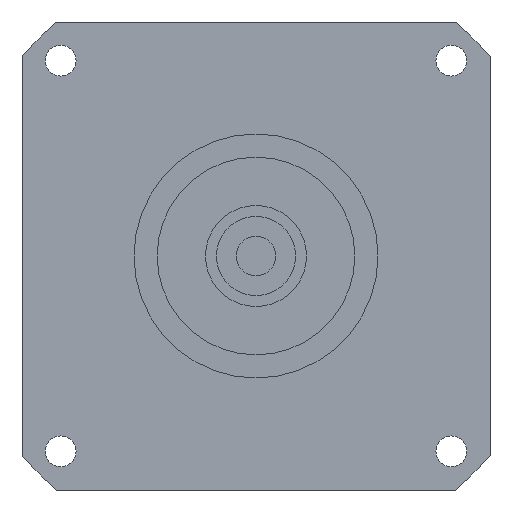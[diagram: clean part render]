
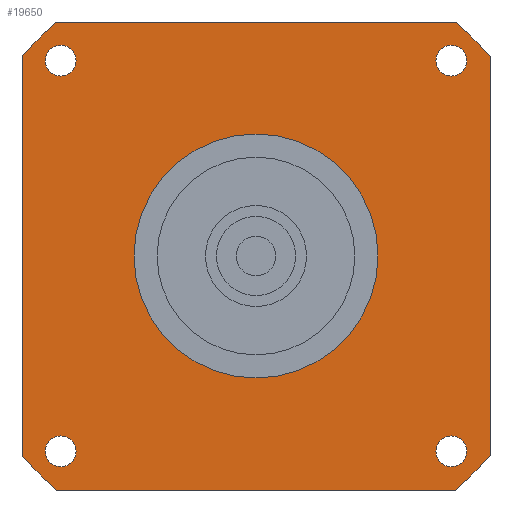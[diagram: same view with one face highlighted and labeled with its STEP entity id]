
A CAD part, left-side view. The second image highlights one B-rep face of the part: STEP entity #19650.
In plain terms, the highlighted planar face has unit normal (-1, 0, 0) as drawn and (0, 0, -1) by its records, which use the part's own axes.
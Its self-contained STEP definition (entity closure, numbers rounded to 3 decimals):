
#13830=CARTESIAN_POINT('',(53.25,45.436,-41.));
#13840=VERTEX_POINT('',#13830);
#13890=CARTESIAN_POINT('',(53.25,53.25,-41.));
#13900=DIRECTION('',(0.,-1.,0.));
#13910=VECTOR('',#13900,1000.);
#13920=LINE('',#13890,#13910);
#13930=CARTESIAN_POINT('',(53.25,-45.436,-41.));
#13940=VERTEX_POINT('',#13930);
#13950=EDGE_CURVE('',#13840,#13940,#13920,.T.);
#18070=CARTESIAN_POINT('',(-40.949,44.449,-41.));
#18080=VERTEX_POINT('',#18070);
#18110=CARTESIAN_POINT('',(-44.449,44.449,-41.));
#18120=DIRECTION('',(0.,0.,-1.));
#18130=DIRECTION('',(-1.,0.,0.));
#18140=AXIS2_PLACEMENT_3D('',#18110,#18120,#18130);
#18150=CIRCLE('',#18140,3.5);
#18160=CARTESIAN_POINT('',(-47.949,44.449,-41.));
#18170=VERTEX_POINT('',#18160);
#18180=EDGE_CURVE('',#18170,#18080,#18150,.T.);
#18300=CARTESIAN_POINT('',(53.25,53.25,-41.));
#18310=DIRECTION('',(0.,0.,-1.));
#18320=DIRECTION('',(1.,0.,0.));
#18330=AXIS2_PLACEMENT_3D('',#18300,#18310,#18320);
#18340=PLANE('',#18330);
#18350=ORIENTED_EDGE('',*,*,#18180,.F.);
#18360=EDGE_CURVE('',#18080,#18170,#18150,.T.);
#18370=ORIENTED_EDGE('',*,*,#18360,.F.);
#18380=EDGE_LOOP('',(#18370,#18350));
#18390=FACE_BOUND('',#18380,.T.);
#18400=CARTESIAN_POINT('',(44.449,44.449,-41.));
#18410=DIRECTION('',(0.,0.,-1.));
#18420=DIRECTION('',(0.,1.,0.));
#18430=AXIS2_PLACEMENT_3D('',#18400,#18410,#18420);
#18440=CIRCLE('',#18430,3.5);
#18450=CARTESIAN_POINT('',(44.449,47.949,-41.));
#18460=VERTEX_POINT('',#18450);
#18470=CARTESIAN_POINT('',(44.449,40.949,-41.));
#18480=VERTEX_POINT('',#18470);
#18490=EDGE_CURVE('',#18460,#18480,#18440,.T.);
#18500=ORIENTED_EDGE('',*,*,#18490,.F.);
#18510=EDGE_CURVE('',#18480,#18460,#18440,.T.);
#18520=ORIENTED_EDGE('',*,*,#18510,.F.);
#18530=EDGE_LOOP('',(#18520,#18500));
#18540=FACE_BOUND('',#18530,.T.);
#18550=CARTESIAN_POINT('',(0.,0.,
-41.));
#18560=DIRECTION('',(0.,0.,1.));
#18570=DIRECTION('',(0.,1.,0.));
#18580=AXIS2_PLACEMENT_3D('',#18550,#18560,#18570);
#18590=CIRCLE('',#18580,27.76);
#18600=CARTESIAN_POINT('',(-27.76,0.,-41.));
#18610=VERTEX_POINT('',#18600);
#18620=CARTESIAN_POINT('',(27.76,0.,-41.));
#18630=VERTEX_POINT('',#18620);
#18640=EDGE_CURVE('',#18610,#18630,#18590,.T.);
#18650=ORIENTED_EDGE('',*,*,#18640,.T.);
#18660=CARTESIAN_POINT('',(0.,27.76,-41.));
#18670=VERTEX_POINT('',#18660);
#18680=EDGE_CURVE('',#18670,#18610,#18590,.T.);
#18690=ORIENTED_EDGE('',*,*,#18680,.T.);
#18700=EDGE_CURVE('',#18630,#18670,#18590,.T.);
#18710=ORIENTED_EDGE('',*,*,#18700,.T.);
#18720=EDGE_LOOP('',(#18710,#18690,#18650));
#18730=FACE_BOUND('',#18720,.T.);
#18740=CARTESIAN_POINT('',(44.449,-44.449,-41.));
#18750=DIRECTION('',(0.,0.,-1.));
#18760=DIRECTION('',(1.,0.,0.));
#18770=AXIS2_PLACEMENT_3D('',#18740,#18750,#18760);
#18780=CIRCLE('',#18770,3.5);
#18790=CARTESIAN_POINT('',(47.949,-44.449,-41.));
#18800=VERTEX_POINT('',#18790);
#18810=CARTESIAN_POINT('',(40.949,-44.449,-41.));
#18820=VERTEX_POINT('',#18810);
#18830=EDGE_CURVE('',#18800,#18820,#18780,.T.);
#18840=ORIENTED_EDGE('',*,*,#18830,.F.);
#18850=EDGE_CURVE('',#18820,#18800,#18780,.T.);
#18860=ORIENTED_EDGE('',*,*,#18850,.F.);
#18870=EDGE_LOOP('',(#18860,#18840));
#18880=FACE_BOUND('',#18870,.T.);
#18890=CARTESIAN_POINT('',(-44.449,-44.449,-41.));
#18900=DIRECTION('',(0.,0.,-1.));
#18910=DIRECTION('',(0.,-1.,0.));
#18920=AXIS2_PLACEMENT_3D('',#18890,#18900,#18910);
#18930=CIRCLE('',#18920,3.5);
#18940=CARTESIAN_POINT('',(-44.449,-47.949,-41.));
#18950=VERTEX_POINT('',#18940);
#18960=CARTESIAN_POINT('',(-44.449,-40.949,-41.));
#18970=VERTEX_POINT('',#18960);
#18980=EDGE_CURVE('',#18950,#18970,#18930,.T.);
#18990=ORIENTED_EDGE('',*,*,#18980,.F.);
#19000=EDGE_CURVE('',#18970,#18950,#18930,.T.);
#19010=ORIENTED_EDGE('',*,*,#19000,.F.);
#19020=EDGE_LOOP('',(#19010,#18990));
#19030=FACE_BOUND('',#19020,.T.);
#19040=CARTESIAN_POINT('',(-53.25,53.25,-41.));
#19050=DIRECTION('',(1.,0.,0.));
#19060=VECTOR('',#19050,1000.);
#19070=LINE('',#19040,#19060);
#19080=CARTESIAN_POINT('',(-45.436,53.25,-41.));
#19090=VERTEX_POINT('',#19080);
#19100=CARTESIAN_POINT('',(45.436,53.25,-41.));
#19110=VERTEX_POINT('',#19100);
#19120=EDGE_CURVE('',#19090,#19110,#19070,.T.);
#19130=ORIENTED_EDGE('',*,*,#19120,.T.);
#19140=CARTESIAN_POINT('',(0.,0.,-41.));
#19150=DIRECTION('',(0.,0.,-1.));
#19160=DIRECTION('',(1.,0.,0.));
#19170=AXIS2_PLACEMENT_3D('',#19140,#19150,#19160);
#19180=CIRCLE('',#19170,70.);
#19190=CARTESIAN_POINT('',(-53.25,45.436,-41.));
#19200=VERTEX_POINT('',#19190);
#19210=EDGE_CURVE('',#19200,#19090,#19180,.T.);
#19220=ORIENTED_EDGE('',*,*,#19210,.T.);
#19230=CARTESIAN_POINT('',(-53.25,-53.25,-41.));
#19240=DIRECTION('',(0.,1.,0.));
#19250=VECTOR('',#19240,1000.);
#19260=LINE('',#19230,#19250);
#19270=CARTESIAN_POINT('',(-53.25,-45.436,-41.));
#19280=VERTEX_POINT('',#19270);
#19290=EDGE_CURVE('',#19280,#19200,#19260,.T.);
#19300=ORIENTED_EDGE('',*,*,#19290,.T.);
#19310=CARTESIAN_POINT('',(0.,0.,-41.));
#19320=DIRECTION('',(0.,0.,-1.));
#19330=DIRECTION('',(1.,0.,0.));
#19340=AXIS2_PLACEMENT_3D('',#19310,#19320,#19330);
#19350=CIRCLE('',#19340,70.);
#19360=CARTESIAN_POINT('',(-45.436,-53.25,-41.));
#19370=VERTEX_POINT('',#19360);
#19380=EDGE_CURVE('',#19370,#19280,#19350,.T.);
#19390=ORIENTED_EDGE('',*,*,#19380,.T.);
#19400=CARTESIAN_POINT('',(53.25,-53.25,-41.));
#19410=DIRECTION('',(-1.,0.,0.));
#19420=VECTOR('',#19410,1000.);
#19430=LINE('',#19400,#19420);
#19440=CARTESIAN_POINT('',(45.436,-53.25,-41.));
#19450=VERTEX_POINT('',#19440);
#19460=EDGE_CURVE('',#19450,#19370,#19430,.T.);
#19470=ORIENTED_EDGE('',*,*,#19460,.T.);
#19480=CARTESIAN_POINT('',(0.,0.,-41.));
#19490=DIRECTION('',(0.,0.,-1.));
#19500=DIRECTION('',(1.,0.,0.));
#19510=AXIS2_PLACEMENT_3D('',#19480,#19490,#19500);
#19520=CIRCLE('',#19510,70.);
#19530=EDGE_CURVE('',#13940,#19450,#19520,.T.);
#19540=ORIENTED_EDGE('',*,*,#19530,.T.);
#19550=ORIENTED_EDGE('',*,*,#13950,.T.);
#19560=CARTESIAN_POINT('',(0.,0.,-41.));
#19570=DIRECTION('',(0.,0.,-1.));
#19580=DIRECTION('',(1.,0.,0.));
#19590=AXIS2_PLACEMENT_3D('',#19560,#19570,#19580);
#19600=CIRCLE('',#19590,70.);
#19610=EDGE_CURVE('',#19110,#13840,#19600,.T.);
#19620=ORIENTED_EDGE('',*,*,#19610,.T.);
#19630=EDGE_LOOP('',(#19620,#19550,#19540,#19470,#19390,#19300,#19220,
#19130));
#19640=FACE_OUTER_BOUND('',#19630,.T.);
#19650=ADVANCED_FACE('',(#18390,#18540,#18730,#18880,#19030,#19640),
#18340,.T.);
